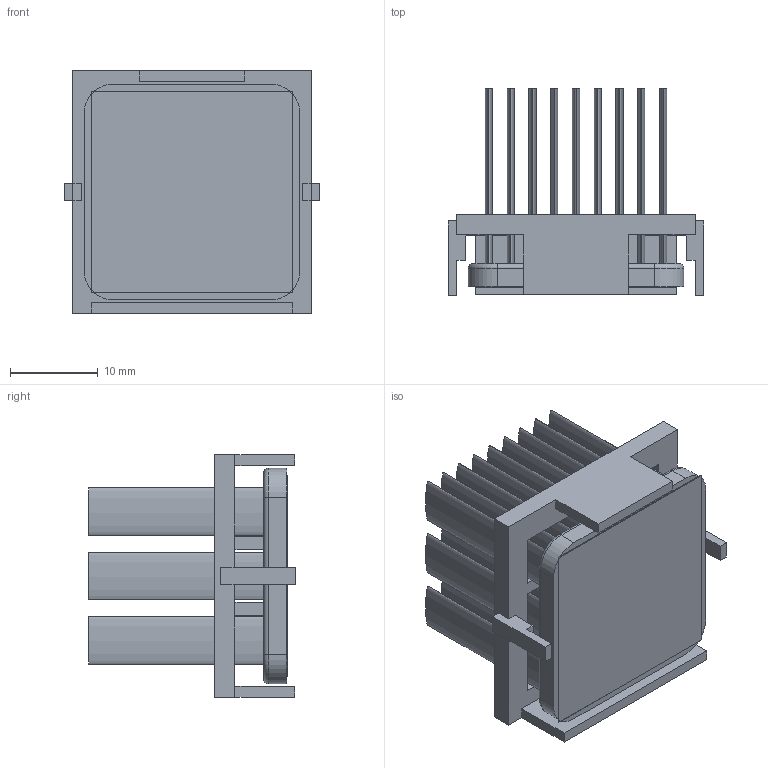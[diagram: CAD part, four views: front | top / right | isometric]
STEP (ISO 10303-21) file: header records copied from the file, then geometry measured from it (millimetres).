
FILE_DESCRIPTION (( 'STEP AP214' ), '1' );
FILE_NAME ('INM25001-23W-2.6O.STEP', '2023-02-22T18:03:23', ( '' ), ( '' ), 'SwSTEP 2.0', 'SolidWorks 2020', '' );
FILE_SCHEMA (( 'AUTOMOTIVE_DESIGN' ));
Length unit declared in the file: inch
Products named in the file (1): INM25001-23W-2.6O
Bounding box: 29.2 x 23.6 x 27.7 mm (x, y, z)
Volume: 4624.6 mm3; surface area: 10474.5 mm2
Topology: 3 solids, 3 shells, 163 faces, 382 edges, 252 vertices
Faces by surface type: plane 97, bspline 54, cylinder 8, torus 4
Entity records: 6919 total; most frequent: CARTESIAN_POINT 1500, ORIENTED_EDGE 764, DIRECTION 514, EDGE_CURVE 382, LINE 254, VECTOR 254, VERTEX_POINT 252, EDGE_LOOP 192
